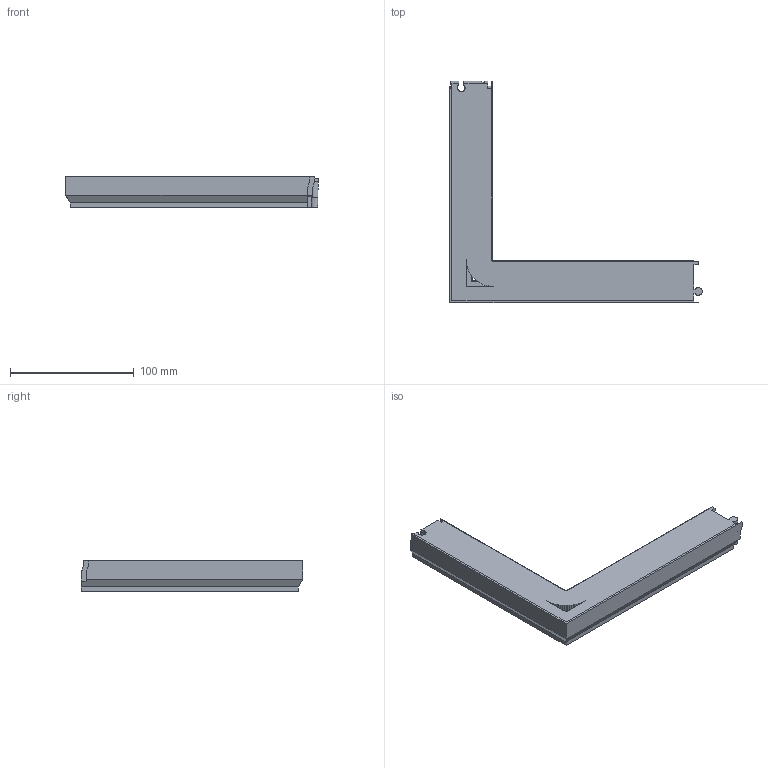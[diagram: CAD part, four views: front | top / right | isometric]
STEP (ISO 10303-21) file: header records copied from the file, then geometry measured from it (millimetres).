
FILE_DESCRIPTION(('Open CASCADE Model'),'2;1');
FILE_NAME('Open CASCADE Shape Model','2026-10-24T08:14:47',('Author'),( 'Open CASCADE'),'Open CASCADE STEP processor 8.0','build123d', 'Unknown');
FILE_SCHEMA(('AUTOMOTIVE_DESIGN { 1 0 10303 214 1 1 1 1 }'));
Products named in the file (1): SOLID
Bounding box: 203.88 x 179.1 x 25 mm (x, y, z)
Volume: 185595.9 mm3; surface area: 48396.8 mm2
Topology: 1 solids, 1 shells, 2251 faces, 4826 edges, 2577 vertices
Faces by surface type: bspline 1846, plane 399, cone 6
Entity records: 116437 total; most frequent: CARTESIAN_POINT 30584, DIRECTION 10792, LINE 9962, VECTOR 9962, ORIENTED_EDGE 9652, PCURVE 9652, DEFINITIONAL_REPRESENTATION 9652, EDGE_CURVE 4826
